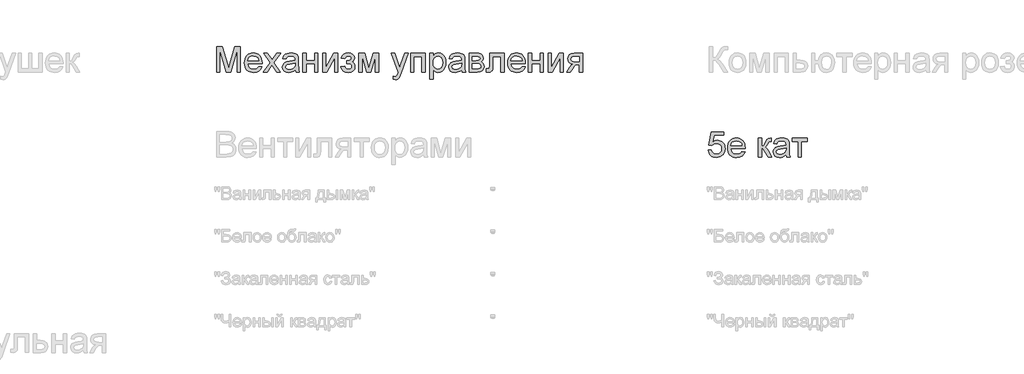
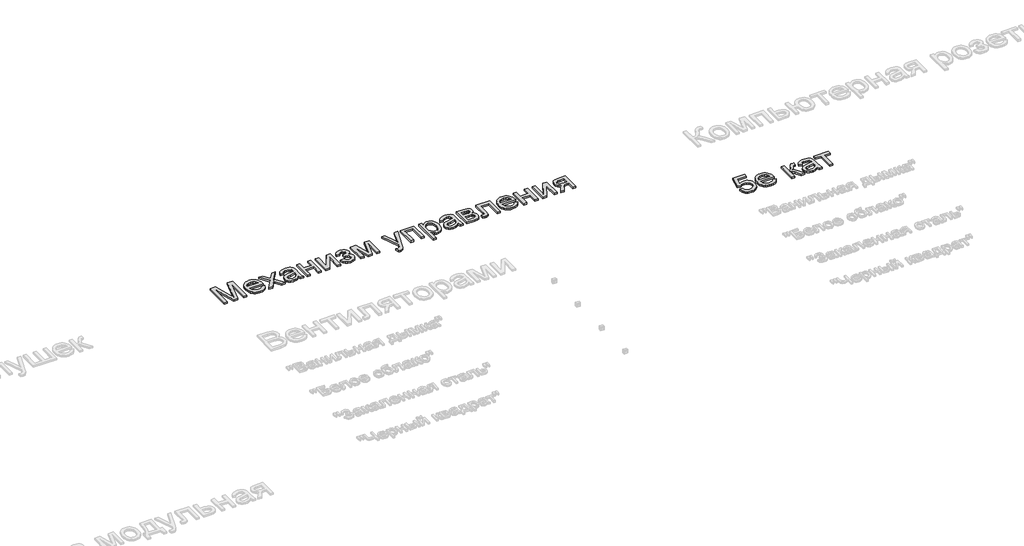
# One storey, part 106 of 168: 2 proxies.
"""IFC4 building model written with IfcOpenShell, lengths in millimetres."""

from ifc_helpers import new_model, si_unit, origin, origin_with_axes, place, context, project, spatial, polyline, outline, extrude, element, save

model = new_model("IFC4")

# Units and contexts
model_context = context("Model", 3, world=origin())
ifc_project = project(units=[si_unit("LENGTHUNIT", "METRE", prefix="MILLI")], contexts=[model_context])

# Site, building, storey
site = spatial("IfcSite", under=ifc_project)
building = spatial("IfcBuilding", under=site)
storey = spatial("IfcBuildingStorey", under=building, Name="Этаж 01", Elevation=0.0)

# Proxies
placement = place(None, origin())
element("IfcBuildingElementProxy", 1, Name="300 мм Arial 2", ObjectType="300 мм Arial 2", at=placement, inside=storey, context=model_context, shape_type="SweptSolid", body=[
    extrude(outline(polyline([(54408.7231967, -30966.8622977), (54408.7231967, -30665.4933673), (54473.5440042, -30665.4933673), (54535.2010266, -30877.9084313), (54547.6354381, -30922.2749999), (54561.0999191, -30874.2296113), (54621.7268719, -30665.4933673), (54686.5476794, -30665.4933673), (54686.5476794, -30966.8622977), (54648.8765631, -30966.8622977), (54648.8765631, -30703.1644836), (54573.1664485, -30966.8622977), (54522.1044276, -30966.8622977), (54446.394313, -30703.1644836), (54446.394313, -30966.8622977), (54408.7231967, -30966.8622977)])), origin_with_axes(), (0.0, 0.0, 1.0), 20.0),
    extrude(outline(polyline([(54902.7151398, -30900.9378442), (54939.6504921, -30905.6467337), (54926.3423609, -30933.4770067), (54905.1063728, -30954.2807335), (54876.4207742, -30967.2485738), (54840.7638118, -30971.5711873), (54817.3895095, -30969.7064854), (54796.5627901, -30964.1123798), (54778.2836535, -30954.7888705), (54762.5520996, -30941.7359575), (54749.9015575, -30925.3169242), (54740.865456, -30905.8950541), (54735.4437951, -30883.4703472), (54733.6365748, -30858.0428036), (54735.4621892, -30831.7530365), (54740.9390324, -30808.5810693), (54750.0671044, -30788.526902), (54762.8464052, -30771.5905347), (54778.5365723, -30758.1352507), (54796.3972432, -30748.5243336), (54816.4284178, -30742.7577833), (54838.6300962, -30740.8355999), (54860.116704, -30742.7531848), (54879.5477712, -30748.5059395), (54896.9232976, -30758.093864), (54912.2432835, -30771.5169583), (54924.7489721, -30788.4165374), (54933.6816067, -30808.4339165), (54939.0411876, -30831.5690955), (54940.8277145, -30857.8220744), (54940.6069853, -30867.9756174), (54771.3076911, -30867.9756174), (54777.8283995, -30896.1737724), (54792.9759406, -30916.9039228), (54814.8373282, -30929.6510339), (54841.4995758, -30933.900071), (54861.5491445, -30931.9319023), (54878.4349281, -30926.0273963), (54892.1569265, -30915.8186709), (54902.7151398, -30900.9378442)]), holes=[polyline([(54771.3076911, -30830.3045011), (54903.1565982, -30830.3045011), (54898.0614326, -30810.4020852), (54888.0734364, -30796.165052), (54866.1108813, -30782.9213001), (54838.4829434, -30778.5067162), (54813.0898887, -30782.0291863), (54792.0930239, -30792.5965966), (54777.4973057, -30809.068513), (54771.3076911, -30830.3045011)])]), origin_with_axes(), (0.0, 0.0, 1.0), 20.0),
    extrude(outline(polyline([(54954.9543831, -30966.8622977), (55035.4469637, -30855.6147824), (54959.6632727, -30745.5444894), (55004.9863345, -30745.5444894), (55041.5538048, -30798.5194967), (55058.6235294, -30823.5354724), (55073.4123856, -30803.0812335), (55115.0566274, -30745.5444894), (55160.3796892, -30745.5444894), (55080.7700255, -30855.6147824), (55157.4366333, -30966.8622977), (55112.1135715, -30966.8622977), (55065.9811693, -30899.981351), (55057.5198834, -30887.7676688), (55000.2774449, -30966.8622977), (54954.9543831, -30966.8622977)])), origin_with_axes(), (0.0, 0.0, 1.0), 20.0),
    extrude(outline(polyline([(55331.6655462, -30938.6089605), (55313.6669196, -30954.0416102), (55295.1348641, -30964.139971), (55275.6463154, -30969.7133832), (55254.7782092, -30971.5711873), (55223.2967075, -30967.101421), (55200.0741565, -30953.6921223), (55185.7543498, -30933.3298539), (55180.981081, -30908.0011785), (55182.7837027, -30892.3845878), (55188.1915681, -30878.2027369), (55196.5332923, -30866.0626311), (55207.1374908, -30856.5712756), (55233.5146299, -30844.2104405), (55266.1089746, -30838.5450578), (55304.6262195, -30832.5853695), (55331.444817, -30825.5956116), (55331.6655462, -30817.2079021), (55329.0719781, -30800.3956949), (55321.2912739, -30789.3960233), (55303.8904555, -30781.229043), (55279.6470321, -30778.5067162), (55257.2062304, -30780.318535), (55241.5344574, -30785.7539915), (55230.8474854, -30795.806367), (55223.3610868, -30811.468943), (55185.6899705, -30806.7600534), (55192.229073, -30786.1586617), (55201.9871429, -30769.9718539), (55215.8746882, -30757.5926248), (55234.8022168, -30748.413969), (55257.9511914, -30742.7301922), (55284.5030744, -30740.8355999), (55309.9697055, -30742.509463), (55330.15723, -30747.5310522), (55345.3783475, -30755.0818302), (55355.9457579, -30764.3432594), (55362.9539099, -30775.7935865), (55367.4972525, -30789.9110581), (55369.3366625, -30822.8732848), (55369.3366625, -30869.741451), (55371.2496489, -30935.1876579), (55378.7544416, -30966.8622977), (55341.0833253, -30966.8622977), (55331.6655462, -30938.6089605)]), holes=[polyline([(55331.6655462, -30863.2667279), (55270.8914406, -30874.8182225), (55238.4810368, -30880.9250637), (55223.8025452, -30890.8578775), (55218.6521973, -30905.3524281), (55221.4572975, -30916.5544349), (55229.8725981, -30925.7330907), (55243.7141582, -30931.8583259), (55262.7980367, -30933.900071), (55283.0315464, -30931.6467937), (55300.9106114, -30924.8869621), (55315.405162, -30914.9265571), (55325.4851287, -30903.0715598), (55329.9548949, -30890.8578775), (55331.444817, -30873.9353058), (55331.6655462, -30863.2667279)])]), origin_with_axes(), (0.0, 0.0, 1.0), 20.0),
    extrude(outline(polyline([(55421.1344474, -30745.5444894), (55458.8055637, -30745.5444894), (55458.8055637, -30830.3045011), (55557.692244, -30830.3045011), (55557.692244, -30745.5444894), (55595.3633603, -30745.5444894), (55595.3633603, -30966.8622977), (55557.692244, -30966.8622977), (55557.692244, -30867.9756174), (55458.8055637, -30867.9756174), (55458.8055637, -30966.8622977), (55421.1344474, -30966.8622977), (55421.1344474, -30745.5444894)])), origin_with_axes(), (0.0, 0.0, 1.0), 20.0),
    extrude(outline(polyline([(55651.8700348, -30745.5444894), (55689.5411511, -30745.5444894), (55689.5411511, -30914.3287488), (55782.1002611, -30745.5444894), (55830.8078372, -30745.5444894), (55830.8078372, -30966.8622977), (55793.1367209, -30966.8622977), (55793.1367209, -30799.1081079), (55701.1662221, -30966.8622977), (55651.8700348, -30966.8622977), (55651.8700348, -30745.5444894)])), origin_with_axes(), (0.0, 0.0, 1.0), 20.0),
    extrude(outline(polyline([(55939.1122966, -30867.9756174), (55939.1122966, -30830.3045011), (55968.8371618, -30828.8329731), (55983.8467472, -30820.9970866), (55989.144248, -30813.6486438), (55990.9100815, -30804.6263379), (55988.5464397, -30793.9117748), (55981.4555143, -30785.6068387), (55970.6305866, -30780.2817468), (55957.064938, -30778.5067162), (55943.3521366, -30780.2725498), (55931.8650213, -30785.5700505), (55922.6035921, -30794.3992184), (55915.5678489, -30806.7600534), (55873.1878431, -30802.0511639), (55884.426638, -30775.2693546), (55901.5147567, -30756.1394909), (55924.4521991, -30744.6615726), (55953.2389652, -30740.8355999), (55984.729664, -30745.4985042), (56008.5684173, -30759.4872171), (56023.5780027, -30779.950653), (56028.5811978, -30804.0377267), (56026.8015687, -30816.3985617), (56021.4626812, -30827.4350216), (56012.5645355, -30837.1471062), (56000.1071314, -30845.5348157), (56014.6476673, -30856.0010585), (56025.0127425, -30869.005687), (56031.2207512, -30884.5854895), (56033.2900874, -30902.7772542), (56028.0385719, -30930.5063596), (56012.2840255, -30952.4781117), (55987.0933058, -30966.7979184), (55953.5332708, -30971.5711873), (55920.7089998, -30967.1566033), (55895.5918566, -30953.9128515), (55878.1818412, -30931.8399318), (55868.4789535, -30900.9378442), (55910.8589594, -30896.2289547), (55917.2049238, -30912.1582451), (55927.8551076, -30924.0408335), (55941.577106, -30931.4352616), (55957.1385144, -30933.900071), (55972.2952526, -30931.5364291), (55984.6560876, -30924.4455037), (55992.8782502, -30913.6757583), (55995.6189711, -30900.2756566), (55993.9175168, -30889.662261), (55988.8131542, -30880.4836053), (55974.3186036, -30869.8886038), (55946.4699365, -30867.7548882), (55939.1122966, -30867.9756174)])), origin_with_axes(), (0.0, 0.0, 1.0), 20.0),
    extrude(outline(polyline([(56080.3789828, -30745.5444894), (56145.1997903, -30745.5444894), (56195.1581653, -30922.7164583), (56249.0160894, -30745.5444894), (56311.1145701, -30745.5444894), (56311.1145701, -30966.8622977), (56273.4434538, -30966.8622977), (56273.4434538, -30788.6602593), (56219.2912241, -30966.8622977), (56169.847884, -30966.8622977), (56118.0500991, -30780.125397), (56118.0500991, -30966.8622977), (56080.3789828, -30966.8622977), (56080.3789828, -30745.5444894)])), origin_with_axes(), (0.0, 0.0, 1.0), 20.0),
    extrude(outline(polyline([(56485.3434831, -31051.6223094), (56480.6345935, -31015.3491447), (56499.7644573, -31018.6600827), (56517.6435222, -31014.5030161), (56528.6064057, -31002.9147333), (56538.9071016, -30975.1764308), (56541.8501575, -30966.0529573), (56461.7990354, -30745.5444894), (56501.5302908, -30745.5444894), (56543.9838731, -30868.4170758), (56558.7727293, -30917.5661104), (56573.5615855, -30874.1560349), (56617.1923901, -30745.5444894), (56656.62934, -30745.5444894), (56579.5948502, -30972.1597985), (56559.5820697, -31021.308833), (56549.3365561, -31036.9990001), (56537.7298792, -31047.8699131), (56524.247004, -31054.2158775), (56508.372896, -31056.331199), (56485.3434831, -31051.6223094)])), origin_with_axes(), (0.0, 0.0, 1.0), 20.0),
    extrude(outline(polyline([(56687.8257332, -30745.5444894), (56857.3457566, -30745.5444894), (56857.3457566, -30966.8622977), (56819.6746403, -30966.8622977), (56819.6746403, -30783.2156057), (56725.4968495, -30783.2156057), (56725.4968495, -30966.8622977), (56687.8257332, -30966.8622977), (56687.8257332, -30745.5444894)])), origin_with_axes(), (0.0, 0.0, 1.0), 20.0),
    extrude(outline(polyline([(56913.852431, -31051.6223094), (56913.852431, -30745.5444894), (56951.5235473, -30745.5444894), (56951.5235473, -30782.4798418), (56963.810806, -30764.2604859), (56977.5695926, -30751.2466604), (56993.6092476, -30743.438365), (57012.7391113, -30740.8355999), (57038.2149395, -30744.4776316), (57060.4901943, -30755.4037269), (57078.6267767, -30772.9516981), (57091.6865875, -30796.4593576), (57099.5776563, -30824.2160541), (57102.2080126, -30854.5111364), (57099.2373655, -30886.7284021), (57090.3254241, -30915.5427594), (57075.7572971, -30939.4918773), (57055.818093, -30957.1134249), (57032.595542, -30967.9567467), (57008.1773746, -30971.5711873), (56990.8593297, -30969.1523632), (56975.3990888, -30961.8958908), (56962.1645341, -30950.9422044), (56951.5235473, -30937.4317381), (56951.5235473, -31051.6223094), (56913.852431, -31051.6223094)]), holes=[polyline([(56951.5235473, -30857.9692272), (56955.5978404, -30891.7407943), (56967.8207197, -30915.3588184), (56985.8561345, -30929.2647578), (57007.3680342, -30933.900071), (57029.2294218, -30929.0992109), (57047.7246891, -30914.6966308), (57060.3338445, -30890.214084), (57064.5368963, -30855.173324), (57060.435012, -30821.5856978), (57048.1293593, -30797.63658), (57030.1215356, -30783.2891821), (57008.9131386, -30778.5067162), (56987.6219681, -30783.5926848), (56968.9243657, -30798.8505905), (56955.8737519, -30823.8021869), (56951.5235473, -30857.9692272)])]), origin_with_axes(), (0.0, 0.0, 1.0), 20.0),
    extrude(outline(polyline([(57285.8547046, -30938.6089605), (57267.8560779, -30954.0416102), (57249.3240224, -30964.139971), (57229.8354737, -30969.7133832), (57208.9673676, -30971.5711873), (57177.4858658, -30967.101421), (57154.2633149, -30953.6921223), (57139.9435082, -30933.3298539), (57135.1702393, -30908.0011785), (57136.9728611, -30892.3845878), (57142.3807264, -30878.2027369), (57150.7224507, -30866.0626311), (57161.3266492, -30856.5712756), (57187.7037882, -30844.2104405), (57220.298133, -30838.5450578), (57258.8153779, -30832.5853695), (57285.6339754, -30825.5956116), (57285.8547046, -30817.2079021), (57283.2611365, -30800.3956949), (57275.4804323, -30789.3960233), (57258.0796139, -30781.229043), (57233.8361904, -30778.5067162), (57211.3953887, -30780.318535), (57195.7236157, -30785.7539915), (57185.0366438, -30795.806367), (57177.5502452, -30811.468943), (57139.8791289, -30806.7600534), (57146.4182313, -30786.1586617), (57156.1763013, -30769.9718539), (57170.0638466, -30757.5926248), (57188.9913752, -30748.413969), (57212.1403498, -30742.7301922), (57238.6922328, -30740.8355999), (57264.1588639, -30742.509463), (57284.3463884, -30747.5310522), (57299.5675059, -30755.0818302), (57310.1349162, -30764.3432594), (57317.1430682, -30775.7935865), (57321.6864109, -30789.9110581), (57323.5258209, -30822.8732848), (57323.5258209, -30869.741451), (57325.4388072, -30935.1876579), (57332.9435999, -30966.8622977), (57295.2724836, -30966.8622977), (57285.8547046, -30938.6089605)]), holes=[polyline([(57285.8547046, -30863.2667279), (57225.080599, -30874.8182225), (57192.6701952, -30880.9250637), (57177.9917036, -30890.8578775), (57172.8413556, -30905.3524281), (57175.6464559, -30916.5544349), (57184.0617565, -30925.7330907), (57197.9033166, -30931.8583259), (57216.9871951, -30933.900071), (57237.2207048, -30931.6467937), (57255.0997698, -30924.8869621), (57269.5943204, -30914.9265571), (57279.674287, -30903.0715598), (57284.1440533, -30890.8578775), (57285.6339754, -30873.9353058), (57285.8547046, -30863.2667279)])]), origin_with_axes(), (0.0, 0.0, 1.0), 20.0),
    extrude(outline(polyline([(57375.3236058, -30745.5444894), (57458.3177839, -30745.5444894), (57484.9984256, -30746.8044853), (57503.8247867, -30750.5844728), (57517.6755438, -30757.7213835), (57529.4293736, -30769.0521489), (57537.4583981, -30783.813414), (57540.1347396, -30801.2418235), (57538.5160588, -30815.2857187), (57533.6600165, -30827.3982334), (57525.5482185, -30837.6345499), (57514.1622708, -30846.0498505), (57528.1049984, -30853.87654), (57539.472552, -30866.4673013), (57547.032527, -30882.828853), (57549.5525187, -30901.9679138), (57543.1697661, -30930.6811035), (57527.9946338, -30950.8962191), (57503.9719395, -30962.8707781), (57471.0465009, -30966.8622977), (57375.3236058, -30966.8622977), (57375.3236058, -30745.5444894)]), holes=[polyline([(57412.9947221, -30830.3045011), (57450.22438, -30830.3045011), (57480.9425266, -30828.3915147), (57495.8785356, -30820.7395692), (57500.8173514, -30814.4119989), (57502.4636233, -30806.9072062), (57499.5757497, -30795.6684113), (57490.9121287, -30788.4395301), (57475.2587498, -30784.5215868), (57451.4016024, -30783.2156057), (57412.9947221, -30783.2156057), (57412.9947221, -30830.3045011)]), polyline([(57412.9947221, -30929.1911814), (57459.2007007, -30929.1911814), (57484.3822233, -30927.4897272), (57500.1827549, -30922.3853645), (57508.6624349, -30913.1055412), (57511.8814024, -30898.877705), (57510.2719187, -30889.4507289), (57505.4434675, -30880.7411227), (57498.0306453, -30873.9261087), (57488.6680485, -30870.1829094), (57455.5218807, -30867.9756174), (57412.9947221, -30867.9756174), (57412.9947221, -30929.1911814)])]), origin_with_axes(), (0.0, 0.0, 1.0), 20.0),
    extrude(outline(polyline([(57615.4769722, -30745.5444894), (57784.9969956, -30745.5444894), (57784.9969956, -30966.6415685), (57747.3258793, -30966.6415685), (57747.3258793, -30783.2156057), (57653.1480885, -30783.2156057), (57653.1480885, -30888.7977384), (57650.6097028, -30937.5053145), (57645.854828, -30948.5325773), (57636.6669752, -30958.069918), (57622.7242475, -30964.6642028), (57603.7047484, -30966.8622977), (57573.0969664, -30964.9493114), (57573.0969664, -30929.1911814), (57589.9459618, -30929.1911814), (57606.9788981, -30926.8735249), (57613.7847151, -30919.515885), (57615.4769722, -30886.6640228), (57615.4769722, -30745.5444894)])), origin_with_axes(), (0.0, 0.0, 1.0), 20.0),
    extrude(outline(polyline([(57996.4555664, -30900.9378442), (58033.3909188, -30905.6467337), (58020.0827876, -30933.4770067), (57998.8467994, -30954.2807335), (57970.1612008, -30967.2485738), (57934.5042385, -30971.5711873), (57911.1299362, -30969.7064854), (57890.3032167, -30964.1123798), (57872.0240801, -30954.7888705), (57856.2925263, -30941.7359575), (57843.6419842, -30925.3169242), (57834.6058827, -30905.8950541), (57829.1842218, -30883.4703472), (57827.3770015, -30858.0428036), (57829.2026159, -30831.7530365), (57834.6794591, -30808.5810693), (57843.8075311, -30788.526902), (57856.5868319, -30771.5905347), (57872.276999, -30758.1352507), (57890.1376698, -30748.5243336), (57910.1688445, -30742.7577833), (57932.3705229, -30740.8355999), (57953.8571307, -30742.7531848), (57973.2881978, -30748.5059395), (57990.6637243, -30758.093864), (58005.9837101, -30771.5169583), (58018.4893987, -30788.4165374), (58027.4220334, -30808.4339165), (58032.7816142, -30831.5690955), (58034.5681411, -30857.8220744), (58034.3474119, -30867.9756174), (57865.0481178, -30867.9756174), (57871.5688261, -30896.1737724), (57886.7163673, -30916.9039228), (57908.5777548, -30929.6510339), (57935.2400024, -30933.900071), (57955.2895712, -30931.9319023), (57972.1753548, -30926.0273963), (57985.8973532, -30915.8186709), (57996.4555664, -30900.9378442)]), holes=[polyline([(57865.0481178, -30830.3045011), (57996.8970248, -30830.3045011), (57991.8018592, -30810.4020852), (57981.813863, -30796.165052), (57959.8513079, -30782.9213001), (57932.2233701, -30778.5067162), (57906.8303154, -30782.0291863), (57885.8334505, -30792.5965966), (57871.2377323, -30809.068513), (57865.0481178, -30830.3045011)])]), origin_with_axes(), (0.0, 0.0, 1.0), 20.0),
    extrude(outline(polyline([(58072.2392574, -30745.5444894), (58109.9103738, -30745.5444894), (58109.9103738, -30830.3045011), (58208.7970541, -30830.3045011), (58208.7970541, -30745.5444894), (58246.4681704, -30745.5444894), (58246.4681704, -30966.8622977), (58208.7970541, -30966.8622977), (58208.7970541, -30867.9756174), (58109.9103738, -30867.9756174), (58109.9103738, -30966.8622977), (58072.2392574, -30966.8622977), (58072.2392574, -30745.5444894)])), origin_with_axes(), (0.0, 0.0, 1.0), 20.0),
    extrude(outline(polyline([(58302.9748448, -30745.5444894), (58340.6459611, -30745.5444894), (58340.6459611, -30914.3287488), (58433.2050711, -30745.5444894), (58481.9126473, -30745.5444894), (58481.9126473, -30966.8622977), (58444.241531, -30966.8622977), (58444.241531, -30799.1081079), (58352.2710322, -30966.8622977), (58302.9748448, -30966.8622977), (58302.9748448, -30745.5444894)])), origin_with_axes(), (0.0, 0.0, 1.0), 20.0),
    extrude(outline(polyline([(58707.9393451, -30745.5444894), (58707.9393451, -30966.8622977), (58670.2682288, -30966.8622977), (58670.2682288, -30882.102286), (58649.7404135, -30882.102286), (58621.7813818, -30886.884752), (58610.6161633, -30897.3142065), (58595.5146074, -30919.0376384), (58565.4954366, -30966.8622977), (58521.9382084, -30966.8622977), (58559.7564775, -30906.3824977), (58576.45832, -30884.67746), (58591.8357874, -30875.0389517), (58566.0840478, -30867.1478829), (58547.9842536, -30852.1566916), (58537.2788876, -30832.2174875), (58533.7104322, -30809.4823802), (58538.5848686, -30783.6938523), (58553.2081779, -30763.2764016), (58577.0653253, -30749.9774675), (58609.641276, -30745.5444894), (58707.9393451, -30745.5444894)]), holes=[polyline([(58670.2682288, -30783.2156057), (58620.6041595, -30783.2156057), (58594.9535873, -30785.3953066), (58580.3946574, -30791.934409), (58573.6348257, -30801.3981734), (58571.3815485, -30812.3518598), (58574.7016835, -30826.7084546), (58584.6620885, -30836.6688596), (58603.0653853, -30842.4905922), (58631.7141957, -30844.4311697), (58670.2682288, -30844.4311697), (58670.2682288, -30783.2156057)])]), origin_with_axes(), (0.0, 0.0, 1.0), 20.0),
])
element("IfcBuildingElementProxy", 2, Name="300 мм Arial 2", ObjectType="300 мм Arial 2", at=placement, inside=storey, context=model_context, shape_type="SweptSolid", body=[
    extrude(outline(polyline([(60184.967833, -31886.8111756), (60222.6389493, -31882.102286), (60229.5551309, -31904.7178317), (60241.6216603, -31920.9138365), (60258.7833554, -31930.6535124), (60280.9850338, -31933.900071), (60307.9875722, -31929.3843195), (60328.221082, -31915.837065), (60340.8578285, -31894.821806), (60345.0700773, -31867.902041), (60341.1245429, -31842.5549716), (60329.2879398, -31823.1675904), (60309.4682973, -31810.8619377), (60281.573645, -31806.7600534), (60263.2991069, -31808.3971283), (60248.5010536, -31813.3083529), (60227.3478389, -31830.3045011), (60189.6767226, -31825.5956116), (60222.6389493, -31670.2022568), (60368.614525, -31670.2022568), (60368.614525, -31707.8733731), (60253.0995785, -31707.8733731), (60236.9863472, -31790.8675512), (60263.8969151, -31774.5335907), (60292.09507, -31769.0889371), (60310.4408853, -31770.7765958), (60327.2921799, -31775.8395717), (60342.648954, -31784.277865), (60356.5112074, -31796.0914756), (60367.9868264, -31810.558435), (60376.1836971, -31826.956775), (60381.1018195, -31845.2864954), (60382.7411936, -31865.5475963), (60376.8366876, -31903.2187126), (60369.4560551, -31920.0125256), (60359.1231696, -31935.4451753), (60343.4697907, -31951.2503056), (60325.2044496, -31962.5396843), (60304.3271464, -31969.3133115), (60280.837881, -31971.5711873), (60243.8381493, -31965.7678488), (60228.1594785, -31958.5136757), (60214.3616045, -31948.3578334), (60202.8813869, -31935.8061596), (60194.1556859, -31921.364492), (60184.967833, -31886.8111756)])), origin_with_axes(), (0.0, 0.0, 1.0), 20.0),
    extrude(outline(polyline([(60580.0730959, -31900.9378442), (60617.0084482, -31905.6467337), (60603.700317, -31933.4770067), (60582.4643288, -31954.2807335), (60553.7787303, -31967.2485738), (60518.1217679, -31971.5711873), (60494.7474656, -31969.7064854), (60473.9207462, -31964.1123798), (60455.6416095, -31954.7888705), (60439.9100557, -31941.7359575), (60427.2595136, -31925.3169242), (60418.2234121, -31905.8950541), (60412.8017512, -31883.4703472), (60410.9945309, -31858.0428036), (60412.8201453, -31831.7530365), (60418.2969885, -31808.5810693), (60427.4250605, -31788.526902), (60440.2043613, -31771.5905347), (60455.8945284, -31758.1352507), (60473.7551993, -31748.5243336), (60493.7863739, -31742.7577833), (60515.9880523, -31740.8355999), (60537.4746601, -31742.7531848), (60556.9057272, -31748.5059395), (60574.2812537, -31758.093864), (60589.6012395, -31771.5169583), (60602.1069281, -31788.4165374), (60611.0395628, -31808.4339165), (60616.3991436, -31831.5690955), (60618.1856706, -31857.8220744), (60617.9649414, -31867.9756174), (60448.6656472, -31867.9756174), (60455.1863556, -31896.1737724), (60470.3338967, -31916.9039228), (60492.1952843, -31929.6510339), (60518.8575319, -31933.900071), (60538.9071006, -31931.9319023), (60555.7928842, -31926.0273963), (60569.5148826, -31915.8186709), (60580.0730959, -31900.9378442)]), holes=[polyline([(60448.6656472, -31830.3045011), (60580.5145543, -31830.3045011), (60575.4193886, -31810.4020852), (60565.4313925, -31796.165052), (60543.4688373, -31782.9213001), (60515.8408995, -31778.5067162), (60490.4478448, -31782.0291863), (60469.4509799, -31792.5965966), (60454.8552618, -31809.068513), (60448.6656472, -31830.3045011)])]), origin_with_axes(), (0.0, 0.0, 1.0), 20.0),
    extrude(outline(polyline([(60773.5790253, -31745.5444894), (60811.2501416, -31745.5444894), (60811.2501416, -31839.7222802), (60826.5724267, -31838.030023), (60836.4868465, -31832.9532515), (60845.2608321, -31819.7094997), (60857.1618146, -31793.5163016), (60874.3419038, -31759.4872171), (60889.498642, -31748.413969), (60917.0530034, -31745.5444894), (60924.2634906, -31745.5444894), (60924.2634906, -31783.4363349), (60914.1099475, -31783.2156057), (60895.7158477, -31787.1887313), (60882.7664015, -31811.9839778), (60867.5728751, -31838.8025752), (60846.2725076, -31851.9359624), (60858.2102783, -31857.2380617), (60870.0376845, -31866.5960599), (60893.361403, -31897.4797534), (60933.6812696, -31966.8622977), (60890.8598054, -31966.8622977), (60851.3492791, -31898.9512814), (60831.4836514, -31870.2196976), (60822.194631, -31865.0049703), (60811.2501416, -31863.2667279), (60811.2501416, -31966.8622977), (60773.5790253, -31966.8622977), (60773.5790253, -31745.5444894)])), origin_with_axes(), (0.0, 0.0, 1.0), 20.0),
    extrude(outline(polyline([(61098.4924035, -31938.6089605), (61080.4937769, -31954.0416102), (61061.9617213, -31964.139971), (61042.4731727, -31969.7133832), (61021.6050665, -31971.5711873), (60990.1235647, -31967.101421), (60966.9010138, -31953.6921223), (60952.5812071, -31933.3298539), (60947.8079382, -31908.0011785), (60949.61056, -31892.3845878), (60955.0184253, -31878.2027369), (60963.3601496, -31866.0626311), (60973.9643481, -31856.5712756), (61000.3414872, -31844.2104405), (61032.9358319, -31838.5450578), (61071.4530768, -31832.5853695), (61098.2716743, -31825.5956116), (61098.4924035, -31817.2079021), (61095.8988354, -31800.3956949), (61088.1181312, -31789.3960233), (61070.7173128, -31781.229043), (61046.4738893, -31778.5067162), (61024.0330876, -31780.318535), (61008.3613146, -31785.7539915), (60997.6743427, -31795.806367), (60990.1879441, -31811.468943), (60952.5168278, -31806.7600534), (60959.0559302, -31786.1586617), (60968.8140002, -31769.9718539), (60982.7015455, -31757.5926248), (61001.6290741, -31748.413969), (61024.7780487, -31742.7301922), (61051.3299317, -31740.8355999), (61076.7965628, -31742.509463), (61096.9840873, -31747.5310522), (61112.2052048, -31755.0818302), (61122.7726151, -31764.3432594), (61129.7807672, -31775.7935865), (61134.3241098, -31789.9110581), (61136.1635198, -31822.8732848), (61136.1635198, -31869.741451), (61138.0765061, -31935.1876579), (61145.5812988, -31966.8622977), (61107.9101825, -31966.8622977), (61098.4924035, -31938.6089605)]), holes=[polyline([(61098.4924035, -31863.2667279), (61037.7182979, -31874.8182225), (61005.3078941, -31880.9250637), (60990.6294025, -31890.8578775), (60985.4790545, -31905.3524281), (60988.2841548, -31916.5544349), (60996.6994554, -31925.7330907), (61010.5410155, -31931.8583259), (61029.624894, -31933.900071), (61049.8584037, -31931.6467937), (61067.7374687, -31924.8869621), (61082.2320193, -31914.9265571), (61092.3119859, -31903.0715598), (61096.7817522, -31890.8578775), (61098.2716743, -31873.9353058), (61098.4924035, -31863.2667279)])]), origin_with_axes(), (0.0, 0.0, 1.0), 20.0),
    extrude(outline(polyline([(61169.1257465, -31745.5444894), (61348.063549, -31745.5444894), (61348.063549, -31783.2156057), (61277.4302059, -31783.2156057), (61277.4302059, -31966.8622977), (61239.7590896, -31966.8622977), (61239.7590896, -31783.2156057), (61169.1257465, -31783.2156057), (61169.1257465, -31745.5444894)])), origin_with_axes(), (0.0, 0.0, 1.0), 20.0),
])

save(model, "model.ifc")
